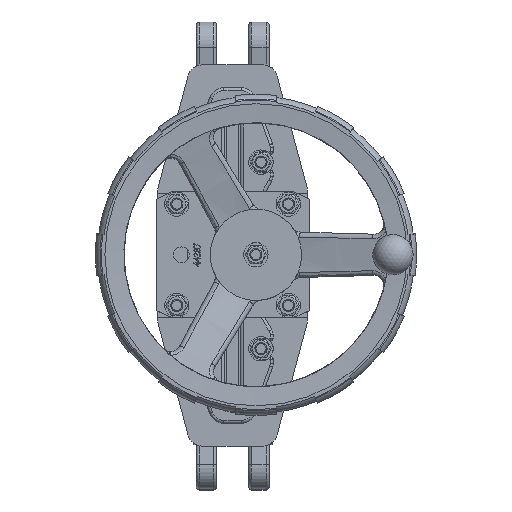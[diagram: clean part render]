
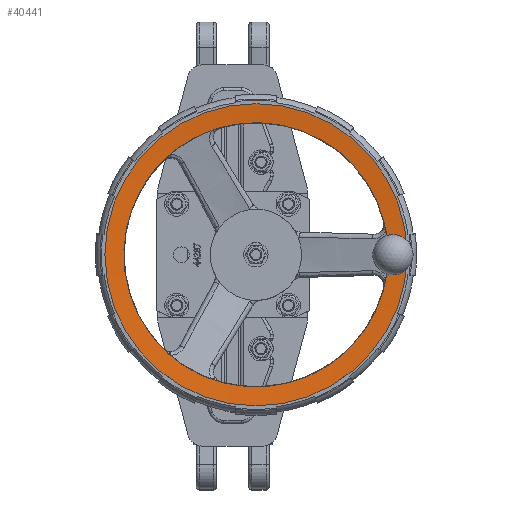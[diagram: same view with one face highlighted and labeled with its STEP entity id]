
A CAD part, top view. The second image highlights one B-rep face of the part: STEP entity #40441.
In plain terms, the highlighted conical face has half-angle 85 degrees and reference radius 139.655 mm.
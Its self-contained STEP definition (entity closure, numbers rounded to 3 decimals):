
#541=CONICAL_SURFACE('',#43465,139.654,1.484);
#621=(
BOUNDED_CURVE()
B_SPLINE_CURVE(2,(#72734,#72735,#72736),.UNSPECIFIED.,.F.,.F.)
B_SPLINE_CURVE_WITH_KNOTS((3,3),(30.11,30.242),
 .UNSPECIFIED.)
CURVE()
GEOMETRIC_REPRESENTATION_ITEM()
RATIONAL_B_SPLINE_CURVE((1.105,1.066,1.026))
REPRESENTATION_ITEM('')
);
#622=(
BOUNDED_CURVE()
B_SPLINE_CURVE(2,(#72796,#72797,#72798),.UNSPECIFIED.,.F.,.F.)
B_SPLINE_CURVE_WITH_KNOTS((3,3),(0.043,0.176),
 .UNSPECIFIED.)
CURVE()
GEOMETRIC_REPRESENTATION_ITEM()
RATIONAL_B_SPLINE_CURVE((1.026,1.066,1.105))
REPRESENTATION_ITEM('')
);
#2483=B_SPLINE_CURVE_WITH_KNOTS('',3,(#72652,#72653,#72654,#72655,#72656,
#72657,#72658),.UNSPECIFIED.,.F.,.F.,(4,3,4),(-0.377,0.,0.165),
 .UNSPECIFIED.);
#2486=B_SPLINE_CURVE_WITH_KNOTS('',3,(#72669,#72670,#72671,#72672,#72673,
#72674),.UNSPECIFIED.,.F.,.F.,(4,2,4),(4.701,4.866,
5.243),.UNSPECIFIED.);
#3665=CIRCLE('',#43454,147.454);
#3669=CIRCLE('',#43466,130.309);
#3670=CIRCLE('',#43467,149.);
#3671=CIRCLE('',#43468,149.);
#3672=CIRCLE('',#43469,130.309);
#6468=FACE_OUTER_BOUND('',#8896,.T.);
#8896=EDGE_LOOP('',(#33363,#33364,#33365,#33366,#33367,#33368,#33369,#33370,
#33371,#33372,#33373));
#11825=LINE('',#72803,#14853);
#14853=VECTOR('',#51294,139.654);
#18503=VERTEX_POINT('',#72601);
#18504=VERTEX_POINT('',#72602);
#18513=VERTEX_POINT('',#72650);
#18514=VERTEX_POINT('',#72651);
#18515=VERTEX_POINT('',#72663);
#18516=VERTEX_POINT('',#72668);
#18523=VERTEX_POINT('',#72800);
#18524=VERTEX_POINT('',#72802);
#18525=VERTEX_POINT('',#72804);
#23683=EDGE_CURVE('',#18503,#18504,#3665,.T.);
#23694=EDGE_CURVE('',#18513,#18514,#2483,.T.);
#23697=EDGE_CURVE('',#18516,#18515,#2486,.T.);
#23704=EDGE_CURVE('',#18514,#18503,#621,.T.);
#23710=EDGE_CURVE('',#18504,#18516,#622,.T.);
#23711=EDGE_CURVE('',#18515,#18523,#3669,.T.);
#23712=EDGE_CURVE('',#18523,#18524,#11825,.T.);
#23713=EDGE_CURVE('',#18525,#18524,#3670,.T.);
#23714=EDGE_CURVE('',#18524,#18525,#3671,.T.);
#23715=EDGE_CURVE('',#18523,#18513,#3672,.T.);
#33363=ORIENTED_EDGE('',*,*,#23694,.T.);
#33364=ORIENTED_EDGE('',*,*,#23704,.T.);
#33365=ORIENTED_EDGE('',*,*,#23683,.T.);
#33366=ORIENTED_EDGE('',*,*,#23710,.T.);
#33367=ORIENTED_EDGE('',*,*,#23697,.T.);
#33368=ORIENTED_EDGE('',*,*,#23711,.T.);
#33369=ORIENTED_EDGE('',*,*,#23712,.T.);
#33370=ORIENTED_EDGE('',*,*,#23713,.F.);
#33371=ORIENTED_EDGE('',*,*,#23714,.F.);
#33372=ORIENTED_EDGE('',*,*,#23712,.F.);
#33373=ORIENTED_EDGE('',*,*,#23715,.T.);
#40441=ADVANCED_FACE('',(#6468),#541,.F.);
#43454=AXIS2_PLACEMENT_3D('',#72603,#51260,#51261);
#43465=AXIS2_PLACEMENT_3D('',#72799,#51290,#51291);
#43466=AXIS2_PLACEMENT_3D('',#72801,#51292,#51293);
#43467=AXIS2_PLACEMENT_3D('',#72805,#51295,#51296);
#43468=AXIS2_PLACEMENT_3D('',#72806,#51297,#51298);
#43469=AXIS2_PLACEMENT_3D('',#72807,#51299,#51300);
#51260=DIRECTION('center_axis',(0.,0.,
-1.));
#51261=DIRECTION('ref_axis',(-0.5,-0.866,0.));
#51290=DIRECTION('center_axis',(0.,0.,
1.));
#51291=DIRECTION('ref_axis',(-0.5,-0.866,0.));
#51292=DIRECTION('center_axis',(0.,0.,
-1.));
#51293=DIRECTION('ref_axis',(-0.5,-0.866,0.));
#51294=DIRECTION('',(0.498,0.863,0.087));
#51295=DIRECTION('center_axis',(0.,0.,
-1.));
#51296=DIRECTION('ref_axis',(-0.5,-0.866,0.));
#51297=DIRECTION('center_axis',(0.,0.,
-1.));
#51298=DIRECTION('ref_axis',(-0.5,-0.866,0.));
#51299=DIRECTION('center_axis',(0.,0.,
-1.));
#51300=DIRECTION('ref_axis',(-0.5,-0.866,0.));
#72601=CARTESIAN_POINT('',(169.776,14.9,751.5));
#72602=CARTESIAN_POINT('',(169.776,-15.1,751.5));
#72603=CARTESIAN_POINT('Origin',(23.087,-0.1,751.5));
#72650=CARTESIAN_POINT('',(152.644,13.878,750.));
#72651=CARTESIAN_POINT('',(158.087,14.9,750.483));
#72652=CARTESIAN_POINT('Ctrl Pts',(152.644,13.878,750.));
#72653=CARTESIAN_POINT('Ctrl Pts',(153.884,14.361,750.112));
#72654=CARTESIAN_POINT('Ctrl Pts',(155.176,14.668,750.228));
#72655=CARTESIAN_POINT('Ctrl Pts',(156.42,14.807,750.337));
#72656=CARTESIAN_POINT('Ctrl Pts',(156.965,14.868,750.385));
#72657=CARTESIAN_POINT('Ctrl Pts',(157.523,14.9,750.434));
#72658=CARTESIAN_POINT('Ctrl Pts',(158.087,14.9,750.483));
#72663=CARTESIAN_POINT('',(152.644,-14.078,750.));
#72668=CARTESIAN_POINT('',(158.087,-15.1,750.483));
#72669=CARTESIAN_POINT('Ctrl Pts',(158.087,-15.1,750.483));
#72670=CARTESIAN_POINT('Ctrl Pts',(157.523,-15.1,750.434));
#72671=CARTESIAN_POINT('Ctrl Pts',(156.965,-15.068,750.385));
#72672=CARTESIAN_POINT('Ctrl Pts',(155.176,-14.868,750.228));
#72673=CARTESIAN_POINT('Ctrl Pts',(153.884,-14.561,750.112));
#72674=CARTESIAN_POINT('Ctrl Pts',(152.644,-14.078,750.));
#72734=CARTESIAN_POINT('Ctrl Pts',(158.087,14.9,750.483));
#72735=CARTESIAN_POINT('Ctrl Pts',(163.691,14.9,750.97));
#72736=CARTESIAN_POINT('Ctrl Pts',(169.776,14.9,751.5));
#72796=CARTESIAN_POINT('Ctrl Pts',(169.776,-15.1,751.5));
#72797=CARTESIAN_POINT('Ctrl Pts',(163.691,-15.1,750.97));
#72798=CARTESIAN_POINT('Ctrl Pts',(158.087,-15.1,750.483));
#72799=CARTESIAN_POINT('Origin',(23.087,-0.1,750.818));
#72800=CARTESIAN_POINT('',(88.241,112.751,750.));
#72801=CARTESIAN_POINT('Origin',(23.087,-0.1,750.));
#72802=CARTESIAN_POINT('',(97.587,128.938,751.635));
#72803=CARTESIAN_POINT('',(92.914,120.844,750.818));
#72804=CARTESIAN_POINT('',(-51.413,-129.138,751.635));
#72805=CARTESIAN_POINT('Origin',(23.087,-0.1,751.635));
#72806=CARTESIAN_POINT('Origin',(23.087,-0.1,751.635));
#72807=CARTESIAN_POINT('Origin',(23.087,-0.1,750.));
